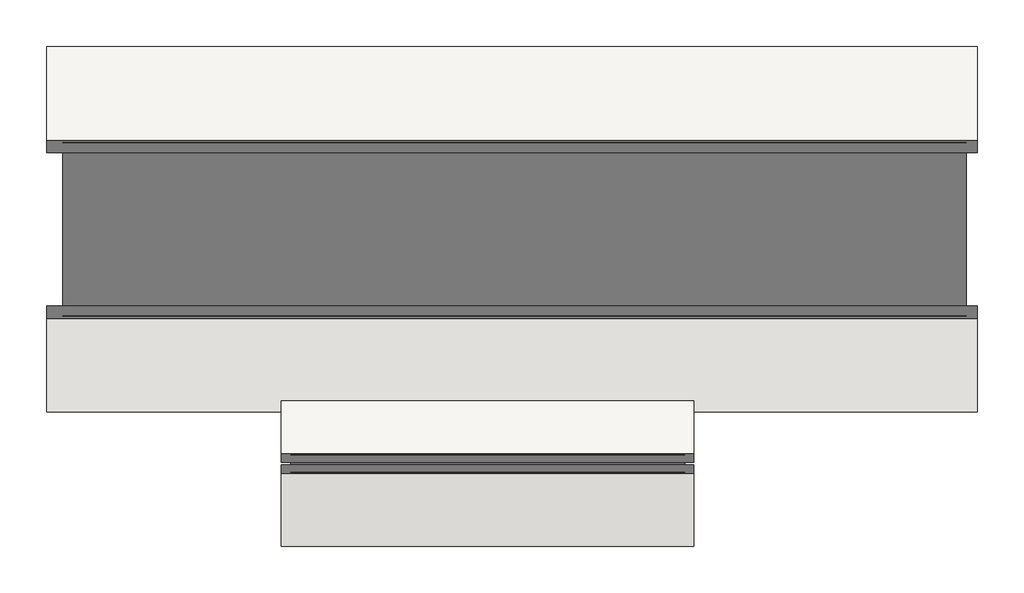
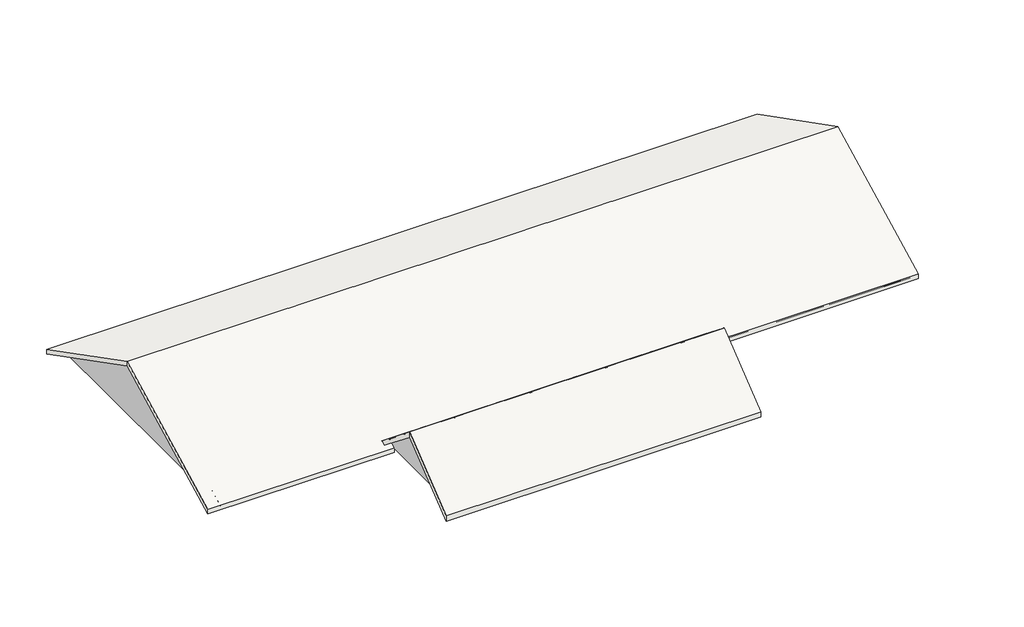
# One storey: 1 proxy, 1 roof.
"""IFC4 building model written with IfcOpenShell, lengths in millimetres."""

import ifcopenshell
import ifcopenshell.guid

model = None  # the IFC model being written
_history = None  # IfcOwnerHistory: only IFC2X3 demands one
_inside = {}  # id of a spatial element -> (the spatial element, [elements in it])
_under = {}  # id of a project, library or spatial element -> (it, [spatial elements below it])
_declared = {}  # id of a project -> (the project, [libraries it declares])
_typed = {}  # id of a type object -> (the type object, [elements of that type])
_made_of = {}  # id of a material, layer set ... -> (it, [elements and type objects made of it])


def new_model(schema):
    """Start an empty IFC model of exactly this schema.

    Asked for "IFC4X3", IfcOpenShell would pick the latest addendum, in which some entities
    have other attributes; the version numbers below select the first issue.
    IFC2X3 requires an IfcOwnerHistory on every rooted entity: one is made here for all.
    """
    global model, _history
    if schema == "IFC4X3":
        model = ifcopenshell.file(schema_version=(4, 3, 0, 0))
    else:
        model = ifcopenshell.file(schema=schema)
    _inside.clear()
    _under.clear()
    _declared.clear()
    _typed.clear()
    _made_of.clear()
    _history = None
    if model.schema == "IFC2X3":
        org = make("IfcOrganization", Name="unknown")
        user = make(
            "IfcPersonAndOrganization",
            ThePerson=make("IfcPerson", FamilyName="unknown"),
            TheOrganization=org,
        )
        app = make(
            "IfcApplication",
            ApplicationDeveloper=org,
            Version="unknown",
            ApplicationFullName="unknown",
            ApplicationIdentifier="unknown",
        )
        _history = make(
            "IfcOwnerHistory",
            OwningUser=user,
            OwningApplication=app,
            ChangeAction="ADDED",
            CreationDate=0,
        )
    return model


def make(cls, **values):
    """One entity of the class cls with the attributes given. An attribute that is None is left unset."""
    return model.create_entity(
        cls, **{name: value for name, value in values.items() if value is not None}
    )


def rooted(cls, **values):
    """An entity with a GlobalId (a new one), such as an element, a storey or a relation."""
    return make(cls, GlobalId=ifcopenshell.guid.new(), OwnerHistory=_history, **values)


def si_unit(unit_type, name, prefix=None):
    """IfcSIUnit, for example si_unit("LENGTHUNIT", "METRE", prefix="MILLI")."""
    return make("IfcSIUnit", UnitType=unit_type, Prefix=prefix, Name=name)


def assignment(units):
    """IfcUnitAssignment: the units of a project."""
    return None if units is None else make("IfcUnitAssignment", Units=units)


def point(xyz):
    """IfcCartesianPoint."""
    return None if xyz is None else make("IfcCartesianPoint", Coordinates=xyz)


def direction(xyz):
    """IfcDirection."""
    return None if xyz is None else make("IfcDirection", DirectionRatios=xyz)


def frame(location, z_axis=None, x_axis=None):
    """IfcAxis2Placement3D, a coordinate frame: its origin and axes. An axis left out is left unset."""
    return make(
        "IfcAxis2Placement3D",
        Location=point(location),
        Axis=direction(z_axis),
        RefDirection=direction(x_axis),
    )


def origin():
    """The frame at (0, 0, 0) with its axes left unset."""
    return frame((0.0, 0.0, 0.0))


def place(relative_to, where):
    """IfcLocalPlacement: puts the frame where relative to a parent placement (None: the world)."""
    return make(
        "IfcLocalPlacement", PlacementRelTo=relative_to, RelativePlacement=where
    )


def context(
    kind, dimensions, precision=None, world=None, true_north=None, identifier=None
):
    """IfcGeometricRepresentationContext, for example the 3D "Model" context."""
    return make(
        "IfcGeometricRepresentationContext",
        ContextIdentifier=identifier,
        ContextType=kind,
        CoordinateSpaceDimension=dimensions,
        Precision=precision,
        WorldCoordinateSystem=world,
        TrueNorth=true_north,
    )


def project(units=None, contexts=None):
    """IfcProject with its units and contexts."""
    return rooted(
        "IfcProject",
        Name="project",
        RepresentationContexts=contexts,
        UnitsInContext=assignment(units),
    )


def spatial(cls, under=None, at=None, **own):
    """A site, building, storey or space (cls), placed at a placement, below another one or the project."""
    s = rooted(cls, ObjectPlacement=at, **own)
    if under is not None:
        _under.setdefault(under.id(), (under, []))[1].append(s)
    return s


def polyline(points):
    """IfcPolyline through the points."""
    return make("IfcPolyline", Points=[point(p) for p in points])


def outline(outer, holes=None, kind="AREA"):
    """IfcArbitraryClosedProfileDef: a profile drawn as a closed curve; with holes, ...WithVoids."""
    if holes is None:
        return make("IfcArbitraryClosedProfileDef", ProfileType=kind, OuterCurve=outer)
    return make(
        "IfcArbitraryProfileDefWithVoids",
        ProfileType=kind,
        OuterCurve=outer,
        InnerCurves=holes,
    )


def extrude(swept, where, along, depth):
    """IfcExtrudedAreaSolid: the profile swept, set in the frame where, extruded along a direction by depth."""
    return make(
        "IfcExtrudedAreaSolid",
        SweptArea=swept,
        Position=where,
        ExtrudedDirection=direction(along),
        Depth=depth,
    )


def faces_of(points, faces, orient=None, outer=None):
    """IfcFace entities. A face is a list of loops; a loop is a list of indices into points, from 0.

    orient and outer hold one flag for each loop. By default every Orientation is true, the
    first loop of a face is its IfcFaceOuterBound and the others are IfcFaceBound.
    """
    made = []
    for i, loops in enumerate(faces):
        bounds = []
        for j, loop in enumerate(loops):
            is_outer = j == 0 if outer is None else outer[i][j]
            bounds.append(
                make(
                    "IfcFaceOuterBound" if is_outer else "IfcFaceBound",
                    Bound=make("IfcPolyLoop", Polygon=[points[k] for k in loop]),
                    Orientation=True if orient is None else orient[i][j],
                )
            )
        made.append(make("IfcFace", Bounds=bounds))
    return made


def faceted_brep(points, faces, orient=None, outer=None, voids=None):
    """IfcFacetedBrep: a solid bounded by flat faces; with voids (closed shells), ...WithVoids."""
    shared = [point(p) for p in points]
    hull = make("IfcClosedShell", CfsFaces=faces_of(shared, faces, orient, outer))
    if voids is None:
        return make("IfcFacetedBrep", Outer=hull)
    return make(
        "IfcFacetedBrepWithVoids",
        Outer=hull,
        Voids=[
            make(cls, CfsFaces=faces_of(shared, fs, o, b)) for cls, fs, o, b in voids
        ],
    )


def shape(context_of_items, identifier, shape_type, items):
    """IfcShapeRepresentation: the items that make up one representation, for example the "Body"."""
    return make(
        "IfcShapeRepresentation",
        ContextOfItems=context_of_items,
        RepresentationIdentifier=identifier,
        RepresentationType=shape_type,
        Items=items,
    )


def made_of(thing, what):
    """Note that an element or type object is made of a material, layer set ...; save() writes the relation."""
    if what is not None:
        _made_of.setdefault(what.id(), (what, []))[1].append(thing)
    return thing


def element(
    cls,
    number,
    at=None,
    inside=None,
    cuts=None,
    type_object=None,
    material=None,
    context=None,
    identifier="Body",
    shape_type=None,
    held_by="IfcProductDefinitionShape",
    body=None,
    shapes=None,
    **own,
):
    """One element of the class cls, such as IfcWall. Its Tag is "e" and its number.

    at: its placement. inside: the storey or other place that contains it. cuts: it is an
    opening in that element (IfcRelVoidsElement). A single representation is given by context,
    identifier, shape_type and body (its items); several are given by shapes. held_by: the class
    of the entity that holds the representations. save() writes the other relations.
    """
    e = rooted(cls, Tag="e%d" % number, ObjectPlacement=at, **own)
    if body is not None:
        shapes = [shape(context, identifier, shape_type, body)]
    if shapes is not None:
        e.Representation = make(held_by, Representations=shapes)
    if inside is not None:
        _inside.setdefault(inside.id(), (inside, []))[1].append(e)
    if cuts is not None:
        rooted(
            "IfcRelVoidsElement", RelatingBuildingElement=cuts, RelatedOpeningElement=e
        )
    if type_object is not None:
        _typed.setdefault(type_object.id(), (type_object, []))[1].append(e)
    return made_of(e, material)


def aggregate(whole, parts):
    """IfcRelAggregates: a whole, such as a stair, and the parts it consists of."""
    return rooted("IfcRelAggregates", RelatingObject=whole, RelatedObjects=parts)


def save(model, path):
    """Write the relations noted so far, then the file.

    IfcRelAggregates (storeys below a building ...), IfcRelContainedInSpatialStructure (elements
    in a storey), IfcRelDefinesByType, IfcRelAssociatesMaterial and IfcRelDeclares: one each for
    every whole, place, type object, material and project.
    """
    for whole, parts in _under.values():
        aggregate(whole, parts)
    for where, things in _inside.values():
        rooted(
            "IfcRelContainedInSpatialStructure",
            RelatedElements=things,
            RelatingStructure=where,
        )
    for kind, things in _typed.values():
        rooted("IfcRelDefinesByType", RelatedObjects=things, RelatingType=kind)
    for what, things in _made_of.values():
        rooted("IfcRelAssociatesMaterial", RelatedObjects=things, RelatingMaterial=what)
    for by, libraries in _declared.values():
        rooted("IfcRelDeclares", RelatingContext=by, RelatedDefinitions=libraries)
    model.write(path)


model = new_model("IFC4")

# Units and contexts
model_context = context("Model", 3, world=origin())
ifc_project = project(units=[si_unit("LENGTHUNIT", "METRE", prefix="MILLI")], contexts=[model_context])

# Site, building, storey
site = spatial("IfcSite", under=ifc_project)
building = spatial("IfcBuilding", under=site)
storey = spatial("IfcBuildingStorey", under=building, Name="樓層 2", Elevation=3500.0)

# Proxy
placement = place(None, origin())
element("IfcBuildingElementProxy", 1, Name="量體 2 : 量體 2", ObjectType="量體 2 : 量體 2", at=placement, inside=storey, context=model_context, shape_type="SolidModel", body=[
    faceted_brep([(14877.4473407, 335.1794642, 3650.6617328), (14877.4473407, -7464.8205358, 3650.6617328), (8877.4473407, -7464.8205358, 3650.6617328), (477.4473407, -7464.8205358, 3650.6617328), (-4382.5526593, -7464.8205358, 3650.6617328), (-4382.5526593, 335.1794642, 3650.6617328), (14877.4473407, -3564.8205358, 5650.6617328), (-4382.5526593, -3564.8205358, 5650.6617328), (477.4473407, -7221.0705358, 3775.6617328), (8877.4473407, -7221.0705358, 3775.6617328)], [[[0, 1, 2, 3, 4, 5]], [[1, 6, 7, 4, 3, 8, 9, 2]], [[0, 5, 7, 6]], [[5, 4, 7]], [[1, 0, 6]], [[3, 2, 9, 8]]]),
    extrude(outline(polyline([(-10064.8205358, 3650.6617328), (-8564.8205358, 4850.6617328), (-7221.0705358, 3775.6617328), (-7464.8205358, 3650.6617328), (-10064.8205358, 3650.6617328)])), frame((477.4473407, 0.0, 0.0), z_axis=(1.0, 0.0, 0.0), x_axis=(0.0, 1.0, 0.0)), (0.0, 0.0, 1.0), 8400.0),
])

# Roof
element("IfcRoof", 2, ObjectType="一般 - 12cm", at=placement, inside=storey, context=model_context, shape_type="Brep", body=[
    faceted_brep([(477.4473407, -7464.8205358, 3675.6617328), (477.4473407, -7221.0705358, 3800.6617328), (8877.4473407, -7221.0705358, 3800.6617328), (8877.4473407, -7464.8205358, 3675.6617328), (15121.0585871, -7464.8205358, 3675.6617328), (15121.0585871, -3564.8205358, 5675.6617328), (-4726.6653879, -3564.8205358, 5675.6617328), (-4726.6653879, -7464.8205358, 3675.6617328), (15121.0585871, 335.1794642, 3675.6617328), (-4726.6653879, 335.1794642, 3675.6617328), (477.4473407, -7464.8205358, 3540.8026128), (-4726.6653879, -7464.8205358, 3540.8026128), (-4726.6653879, -3564.8205358, 5540.8026128), (15121.0585871, -3564.8205358, 5540.8026128), (15121.0585871, -7464.8205358, 3540.8026128), (8877.4473407, -7464.8205358, 3540.8026128), (8877.4473407, -7221.0705358, 3665.8026128), (477.4473407, -7221.0705358, 3665.8026128), (-4726.6653879, 335.1794642, 3540.8026128), (15121.0585871, 335.1794642, 3540.8026128)], [[[0, 1, 2, 3, 4, 5, 6, 7]], [[6, 5, 8, 9]], [[10, 11, 12, 13, 14, 15, 16, 17]], [[12, 18, 19, 13]], [[10, 17, 1, 0]], [[11, 10, 0, 7]], [[12, 11, 7, 6]], [[18, 12, 6, 9]], [[19, 18, 9, 8]], [[13, 19, 8, 5]], [[14, 13, 5, 4]], [[15, 14, 4, 3]], [[16, 15, 3, 2]], [[17, 16, 2, 1]]]),
    faceted_brep([(280.9075223, -8564.8205358, 4875.6617328), (9072.3331181, -8564.8205358, 4875.6617328), (9072.3331181, -7221.0705358, 3800.6617328), (280.9075223, -7221.0705358, 3800.6617328), (9072.3331181, -10328.8843651, 3464.4106695), (280.9075223, -10328.8843651, 3464.4106695), (280.9075223, -8564.8205358, 4721.9867511), (280.9075223, -7221.0705358, 3646.9867511), (9072.3331181, -7221.0705358, 3646.9867511), (9072.3331181, -8564.8205358, 4721.9867511), (9072.3331181, -10328.8843651, 3310.7356878), (280.9075223, -10328.8843651, 3310.7356878)], [[[0, 1, 2, 3]], [[4, 1, 0, 5]], [[6, 7, 8, 9]], [[10, 11, 6, 9]], [[9, 8, 2, 1]], [[10, 9, 1, 4]], [[11, 10, 4, 5]], [[6, 11, 5, 0]], [[7, 6, 0, 3]], [[8, 7, 3, 2]]]),
])

save(model, "model.ifc")
